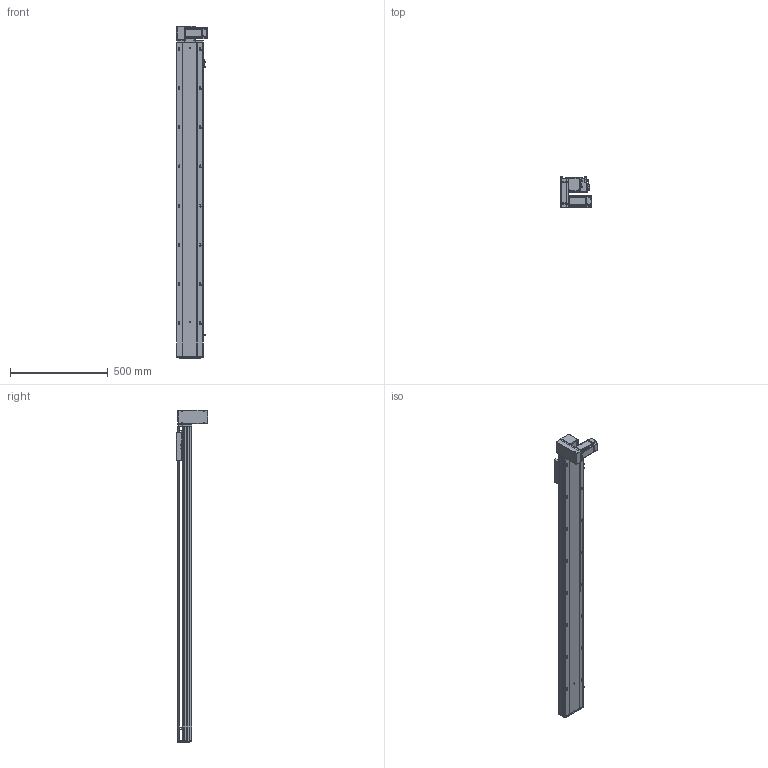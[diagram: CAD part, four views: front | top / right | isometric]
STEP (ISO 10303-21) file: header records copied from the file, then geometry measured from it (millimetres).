
FILE_DESCRIPTION (( 'STEP AP203' ), '1' );
FILE_NAME ('RY140-T-300-DL.SLDASM_1350.step', '2021-03-01T06:06:55', ( '盈信电脑' ), ( '东莞市道滘镇水果街19号' ), 'SwSTEP 2.0', 'SolidWorks 2012', '' );
FILE_SCHEMA (( 'CONFIG_CONTROL_DESIGN' ));
Length unit declared in the file: millimetre
Products named in the file (18): RY140-T-300-DL.SLDASM_1350; RY140-T翋肮謫裔啣; 滅袉蝶18-10; RY120-T主同步轮轴承压盖; RY140-T萇儂欶; 侂狟400W侜督萇儂; RY120-T蹟翐M4; RY120-T肮祭湍揤踡輸1; RY140-T萇儂假蚾啣; 15; RY140-T翋肮祭謫盓傅釱; RY120外置感应片(140共用）; RY120-T肮祭湍揤踡輸2; 覜茼ん672; RY140-T-300-DL倰第菁釱_1350; RY140-T-300-DL倰第奻裔啣_1350; RY140綴裔啣; RY140肮祭謫臏賑輸
Assembly tree (23 placements, depth 3):
  RY140-T-300-DL.SLDASM_1350
    RY140-T-300-DL倰第菁釱_1350
    RY140肮祭謫臏賑輸
    RY140-T-300-DL倰第奻裔啣_1350
    RY140綴裔啣
    覜茼ん672  x3
    RY120外置感应片(140共用）
    RY120-T肮祭湍揤踡輸2
    RY120-T肮祭湍揤踡輸1
    RY140-T翋肮祭謫盓傅釱
    RY140-T萇儂假蚾啣
    侂狟400W侜督萇儂
      15
    RY120-T主同步轮轴承压盖
    RY120-T蹟翐M4  x4
    RY140-T萇儂欶
    滅袉蝶18-10  x2
    RY140-T翋肮謫裔啣
Bounding box: 157 x 158.5 x 1696 mm (x, y, z)
Volume: 4834946.5 mm3; surface area: 1866230.9 mm2
Topology: 22 solids, 22 shells, 2746 faces, 7510 edges, 4802 vertices
Faces by surface type: plane 1385, cylinder 1015, cone 246, bspline 100
Entity records: 86672 total; most frequent: CARTESIAN_POINT 21041, ORIENTED_EDGE 13460, DIRECTION 12860, EDGE_CURVE 6730, VERTEX_POINT 4401, AXIS2_PLACEMENT_3D 4289, VECTOR 4282, LINE 4282
